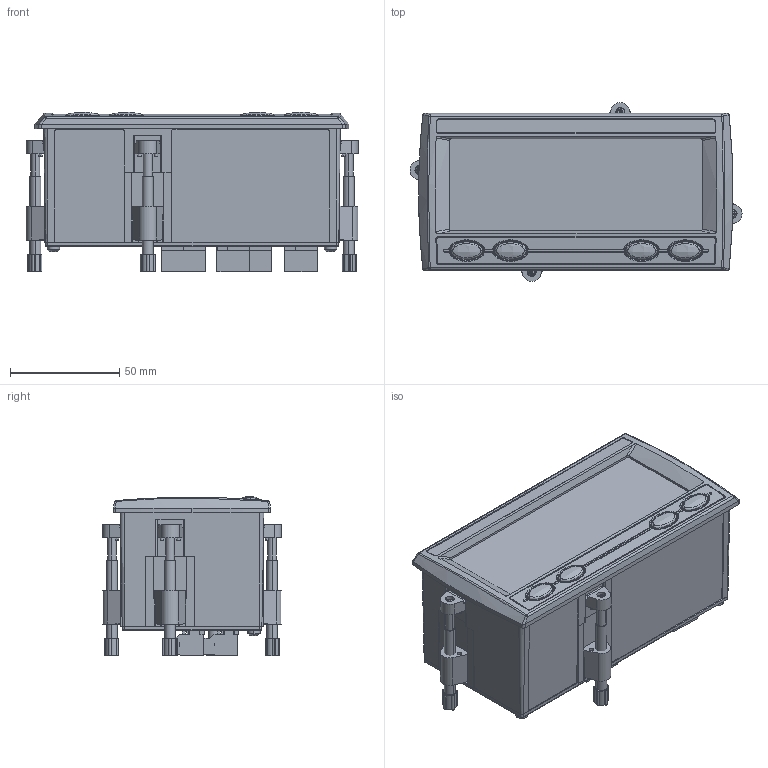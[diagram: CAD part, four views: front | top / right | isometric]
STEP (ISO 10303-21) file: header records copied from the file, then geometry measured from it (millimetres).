
FILE_DESCRIPTION (( 'STEP AP214' ), '1' );
FILE_NAME ('XX8E.STEP', '2019-06-03T14:04:55', ( '' ), ( '' ), 'SwSTEP 2.0', 'SolidWorks 2018', '' );
FILE_SCHEMA (( 'AUTOMOTIVE_DESIGN' ));
Length unit declared in the file: millimetre
Products named in the file (2): XX8E
Bounding box: 151.86 x 81.81 x 72.98 mm (x, y, z)
Volume: 151814.2 mm3; surface area: 121656.1 mm2
Topology: 56 solids, 56 shells, 3173 faces, 7877 edges, 4944 vertices
Faces by surface type: plane 1676, cylinder 876, torus 244, bspline 241, cone 88, sphere 48
Entity records: 146555 total; most frequent: CARTESIAN_POINT 37268, ORIENTED_EDGE 15610, DIRECTION 14934, EDGE_CURVE 7805, AXIS2_PLACEMENT_3D 5083, VERTEX_POINT 4920, VECTOR 4768, LINE 4768
